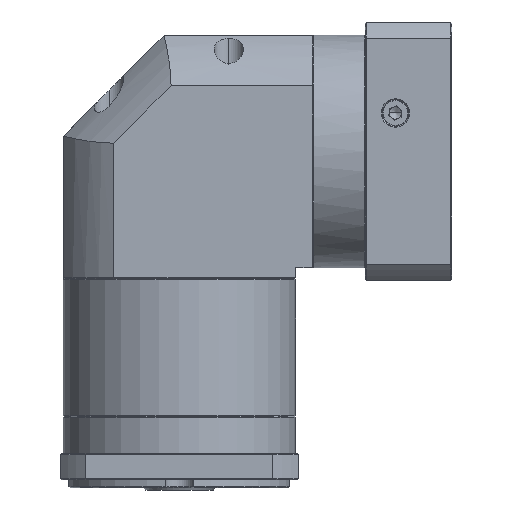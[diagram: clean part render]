
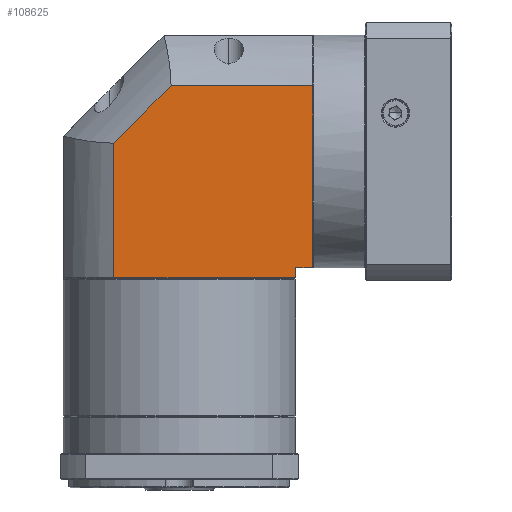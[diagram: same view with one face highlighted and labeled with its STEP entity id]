
A CAD part, front view. The second image highlights one B-rep face of the part: STEP entity #108625.
In plain terms, the highlighted planar face has unit normal (0, -1, 0).
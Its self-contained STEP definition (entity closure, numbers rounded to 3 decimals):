
#4167 = VERTEX_POINT ( 'NONE', #78820 ) ;
#7303 = VECTOR ( 'NONE', #57462, 1000. ) ;
#8184 = DIRECTION ( 'NONE',  ( -1., 0., 0. ) ) ;
#11607 = CARTESIAN_POINT ( 'NONE',  ( 108.053, 27.021, -40.753 ) ) ;
#17470 = CARTESIAN_POINT ( 'NONE',  ( 108.053, 27.021, -29.253 ) ) ;
#18331 = ORIENTED_EDGE ( 'NONE', *, *, #56660, .F. ) ;
#18596 = VECTOR ( 'NONE', #76155, 1000. ) ;
#19173 = ORIENTED_EDGE ( 'NONE', *, *, #50182, .F. ) ;
#19402 = ORIENTED_EDGE ( 'NONE', *, *, #61020, .F. ) ;
#20991 = VERTEX_POINT ( 'NONE', #39926 ) ;
#22470 = ORIENTED_EDGE ( 'NONE', *, *, #103726, .F. ) ;
#23125 = VERTEX_POINT ( 'NONE', #17470 ) ;
#23143 = VECTOR ( 'NONE', #8184, 1000. ) ;
#24374 = LINE ( 'NONE', #115548, #7303 ) ;
#24535 = VECTOR ( 'NONE', #90534, 1000. ) ;
#26228 = DIRECTION ( 'NONE',  ( 1., 0., 0. ) ) ;
#27613 = CARTESIAN_POINT ( 'NONE',  ( 116.453, 27.021, -40.753 ) ) ;
#33792 = VERTEX_POINT ( 'NONE', #117710 ) ;
#35357 = PLANE ( 'NONE',  #111232 ) ;
#36625 = DIRECTION ( 'NONE',  ( 0., 1., 0. ) ) ;
#39926 = CARTESIAN_POINT ( 'NONE',  ( 116.453, 27.021, 60.646 ) ) ;
#43138 = FACE_OUTER_BOUND ( 'NONE', #95215, .T. ) ;
#44641 = VERTEX_POINT ( 'NONE', #66643 ) ;
#46319 = CARTESIAN_POINT ( 'NONE',  ( -6.947, 27.021, -29.253 ) ) ;
#47977 = DIRECTION ( 'NONE',  ( 0., 0., -1. ) ) ;
#50182 = EDGE_CURVE ( 'NONE', #4167, #72887, #61637, .T. ) ;
#54803 = ORIENTED_EDGE ( 'NONE', *, *, #85629, .F. ) ;
#56660 = EDGE_CURVE ( 'NONE', #74618, #23125, #86855, .T. ) ;
#57226 = CARTESIAN_POINT ( 'NONE',  ( -6.947, 27.021, -34.253 ) ) ;
#57462 = DIRECTION ( 'NONE',  ( 1., 0., 0. ) ) ;
#61020 = EDGE_CURVE ( 'NONE', #44641, #4167, #106547, .T. ) ;
#61637 = LINE ( 'NONE', #65709, #122058 ) ;
#65709 = CARTESIAN_POINT ( 'NONE',  ( 18.153, 27.021, 32.308 ) ) ;
#66643 = CARTESIAN_POINT ( 'NONE',  ( 18.153, 27.021, -34.253 ) ) ;
#71102 = LINE ( 'NONE', #57226, #23143 ) ;
#72887 = VERTEX_POINT ( 'NONE', #115604 ) ;
#73994 = VECTOR ( 'NONE', #47977, 1000. ) ;
#74618 = VERTEX_POINT ( 'NONE', #115970 ) ;
#76027 = CARTESIAN_POINT ( 'NONE',  ( -6.947, 27.021, -40.753 ) ) ;
#76155 = DIRECTION ( 'NONE',  ( -1., 0., 0. ) ) ;
#78820 = CARTESIAN_POINT ( 'NONE',  ( 18.153, 27.021, 32.308 ) ) ;
#83109 = EDGE_CURVE ( 'NONE', #72887, #20991, #24374, .T. ) ;
#85629 = EDGE_CURVE ( 'NONE', #23125, #33792, #88044, .T. ) ;
#86855 = LINE ( 'NONE', #46319, #18596 ) ;
#88044 = LINE ( 'NONE', #11607, #24535 ) ;
#90534 = DIRECTION ( 'NONE',  ( 0., 0., -1. ) ) ;
#95215 = EDGE_LOOP ( 'NONE', ( #54803, #18331, #22470, #99735, #19173, #19402, #96831 ) ) ;
#95743 = LINE ( 'NONE', #27613, #73994 ) ;
#96831 = ORIENTED_EDGE ( 'NONE', *, *, #126123, .F. ) ;
#97164 = VECTOR ( 'NONE', #101717, 1000. ) ;
#99735 = ORIENTED_EDGE ( 'NONE', *, *, #83109, .F. ) ;
#101717 = DIRECTION ( 'NONE',  ( 0., 0., 1. ) ) ;
#102131 = CARTESIAN_POINT ( 'NONE',  ( 18.153, 27.021, -40.753 ) ) ;
#103726 = EDGE_CURVE ( 'NONE', #20991, #74618, #95743, .T. ) ;
#106547 = LINE ( 'NONE', #102131, #97164 ) ;
#108625 = ADVANCED_FACE ( 'NONE', ( #43138 ), #35357, .F. ) ;
#111232 = AXIS2_PLACEMENT_3D ( 'NONE', #76027, #36625, #26228 ) ;
#114206 = DIRECTION ( 'NONE',  ( 0.707, 0., 0.707 ) ) ;
#115548 = CARTESIAN_POINT ( 'NONE',  ( -6.947, 27.021, 60.646 ) ) ;
#115604 = CARTESIAN_POINT ( 'NONE',  ( 46.491, 27.021, 60.646 ) ) ;
#115970 = CARTESIAN_POINT ( 'NONE',  ( 116.453, 27.021, -29.253 ) ) ;
#117710 = CARTESIAN_POINT ( 'NONE',  ( 108.053, 27.021, -34.253 ) ) ;
#122058 = VECTOR ( 'NONE', #114206, 1000. ) ;
#126123 = EDGE_CURVE ( 'NONE', #33792, #44641, #71102, .T. ) ;
